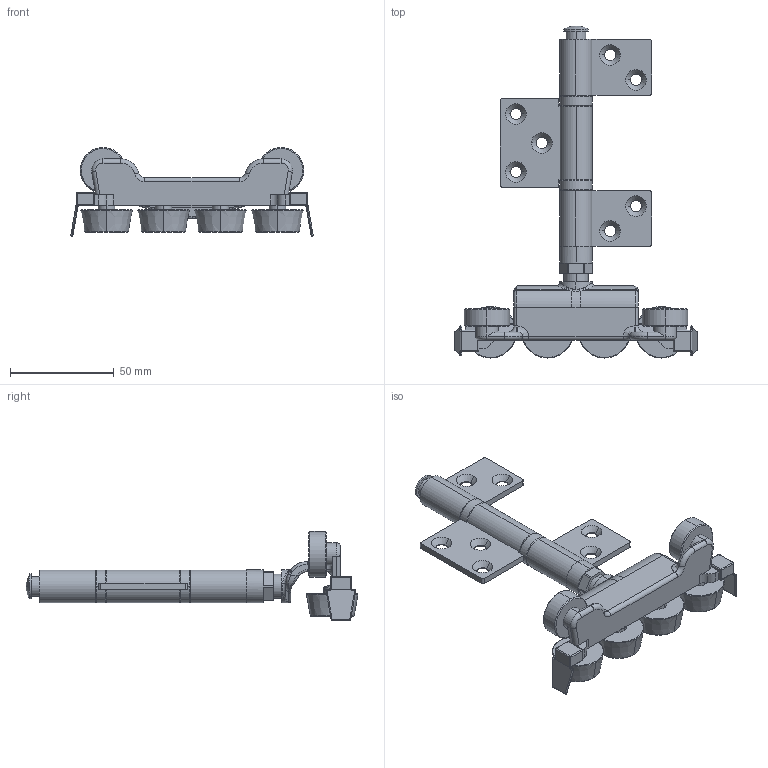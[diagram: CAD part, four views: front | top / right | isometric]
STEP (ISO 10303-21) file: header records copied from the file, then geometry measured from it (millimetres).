
FILE_DESCRIPTION (( 'STEP AP214' ), '1' );
FILE_NAME ('F3 Intermediate carrier - Open 05Jun2024.STEP', '2024-07-05T01:40:26', ( '' ), ( '' ), 'SwSTEP 2.0', 'SolidWorks 2023', '' );
FILE_SCHEMA (( 'AUTOMOTIVE_DESIGN' ));
Length unit declared in the file: millimetre
Products named in the file (5): Straight flap top; Straight flap bottom; F3 Intermediate carrier; F3 Intermediate carrier - Open 05Jun2024; Straight flap middle
Assembly tree (4 placements, depth 2):
  F3 Intermediate carrier - Open 05Jun2024
    F3 Intermediate carrier
    Straight flap top
    Straight flap middle
    Straight flap bottom
Bounding box: 117.1 x 160.35 x 43 mm (x, y, z)
Volume: 73108.6 mm3; surface area: 37390.8 mm2
Topology: 4 solids, 4 shells, 394 faces, 958 edges, 564 vertices
Faces by surface type: cylinder 160, plane 94, cone 54, bspline 30, sphere 28, torus 28
Entity records: 12366 total; most frequent: CARTESIAN_POINT 3162, DIRECTION 2019, ORIENTED_EDGE 1856, EDGE_CURVE 928, AXIS2_PLACEMENT_3D 814, VERTEX_POINT 556, CIRCLE 443, EDGE_LOOP 428
